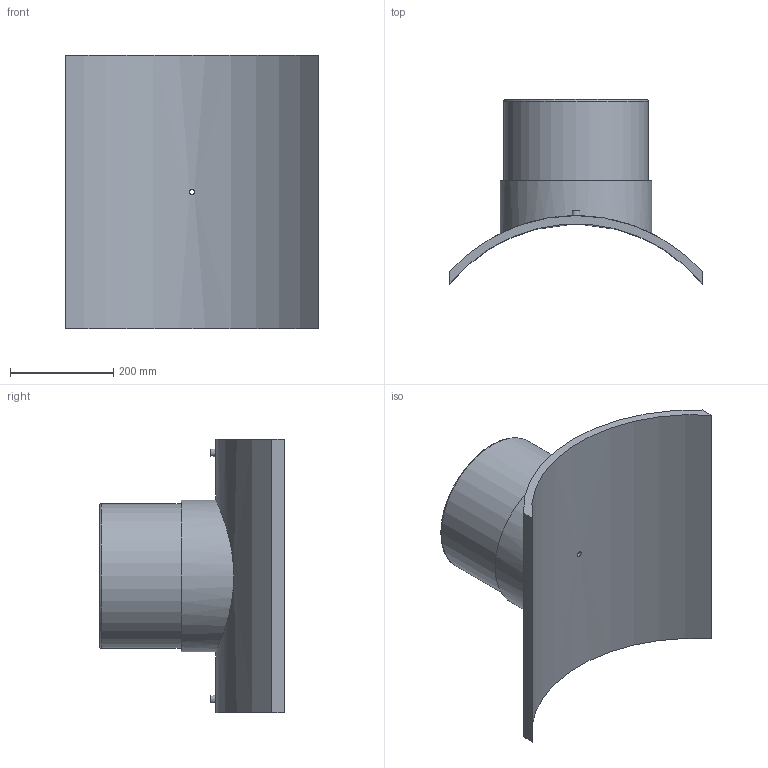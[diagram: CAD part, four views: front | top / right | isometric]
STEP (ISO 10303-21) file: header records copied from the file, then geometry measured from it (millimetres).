
FILE_DESCRIPTION(/* description */ ('PLASSON BRANCH SADDLE 630x280'),/* implementation_level */ '2;1');
FILE_NAME(/* name */ 'C:\Dropbox\KIMPROJECTS-Inventor 2019\99-16-3568-Processing\ElectroFusion Fittings\495803\stp\495803630280T.stp',/* time_stamp */ '2024-04-04T11:54:14+02:00',/* author */ ('KIM'),/* organization */ (''),/* preprocessor_version */ 'ST-DEVELOPER v17.2',/* originating_system */ 'Autodesk Inventor 2019',/* authorisation */ '');
FILE_SCHEMA (('AUTOMOTIVE_DESIGN { 1 0 10303 214 3 1 1 }'));
Length unit declared in the file: millimetre
Products named in the file (1): 495803630280T
Bounding box: 489 x 357.39 x 530 mm (x, y, z)
Volume: 10508763.5 mm3; surface area: 1021769.1 mm2
Topology: 1 solids, 1 shells, 29 faces, 60 edges, 43 vertices
Faces by surface type: plane 13, cylinder 12, torus 2, cone 2
Full cylindrical faces by diameter (mm): 4 x2, 9.6 x1, 10 x2, 16 x1, 224 x1, 280 x1, 294 x1
Entity records: 1086 total; most frequent: CARTESIAN_POINT 400, DIRECTION 139, ORIENTED_EDGE 120, EDGE_CURVE 60, AXIS2_PLACEMENT_3D 60, VERTEX_POINT 43, EDGE_LOOP 41, CIRCLE 30
